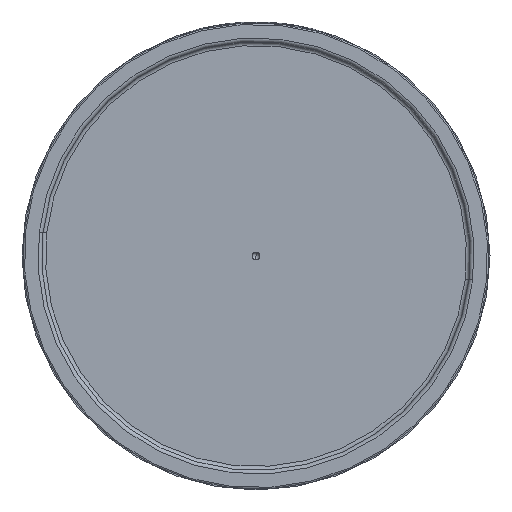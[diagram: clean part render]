
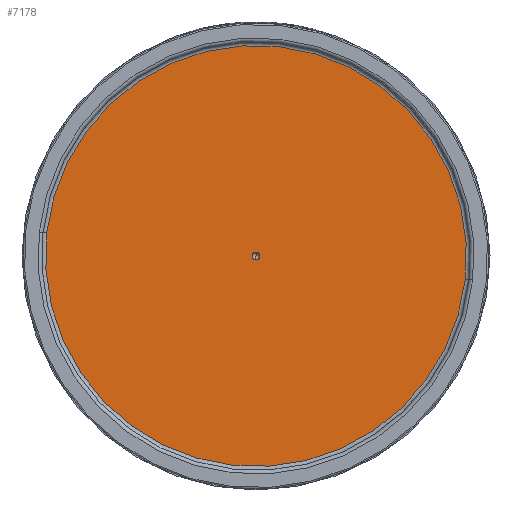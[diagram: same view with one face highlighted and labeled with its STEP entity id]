
A CAD part, front view. The second image highlights one B-rep face of the part: STEP entity #7178.
In plain terms, the highlighted planar face has unit normal (0, -1, 0).
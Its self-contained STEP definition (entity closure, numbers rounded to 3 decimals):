
#230 = DIRECTION ( 'NONE',  ( 0.994, 0., -0.11 ) ) ;
#1933 = CARTESIAN_POINT ( 'NONE',  ( 0., -241.645, 49.614 ) ) ;
#3319 = DIRECTION ( 'NONE',  ( 0.994, 0., -0.11 ) ) ;
#4040 = DIRECTION ( 'NONE',  ( 0., 1., 0. ) ) ;
#6366 = ORIENTED_EDGE ( 'NONE', *, *, #39695, .T. ) ;
#6928 = FACE_OUTER_BOUND ( 'NONE', #33839, .T. ) ;
#7178 = ADVANCED_FACE ( 'NONE', ( #13693, #6928 ), #12623, .F. ) ;
#7271 = AXIS2_PLACEMENT_3D ( 'NONE', #10506, #4040, #22774 ) ;
#7304 = VERTEX_POINT ( 'NONE', #22345 ) ;
#7340 = CARTESIAN_POINT ( 'NONE',  ( -0.055, -241.645, 49.117 ) ) ;
#8079 = EDGE_CURVE ( 'NONE', #7304, #18301, #22317, .T. ) ;
#8927 = CARTESIAN_POINT ( 'NONE',  ( 0., -241.645, 49.614 ) ) ;
#9615 = AXIS2_PLACEMENT_3D ( 'NONE', #8927, #36769, #39915 ) ;
#9972 = EDGE_CURVE ( 'NONE', #18301, #7304, #28075, .T. ) ;
#10506 = CARTESIAN_POINT ( 'NONE',  ( 0., -241.645, 49.614 ) ) ;
#11372 = AXIS2_PLACEMENT_3D ( 'NONE', #12229, #30793, #230 ) ;
#11743 = EDGE_LOOP ( 'NONE', ( #31030, #37972 ) ) ;
#12229 = CARTESIAN_POINT ( 'NONE',  ( -0.055, -241.645, 49.117 ) ) ;
#12623 = PLANE ( 'NONE',  #11372 ) ;
#13693 = FACE_BOUND ( 'NONE', #11743, .T. ) ;
#15619 = DIRECTION ( 'NONE',  ( 0., -1., 0. ) ) ;
#18301 = VERTEX_POINT ( 'NONE', #7340 ) ;
#18437 = CARTESIAN_POINT ( 'NONE',  ( 27.722, -241.645, 46.548 ) ) ;
#21818 = CARTESIAN_POINT ( 'NONE',  ( 0., -241.645, 49.614 ) ) ;
#22317 = CIRCLE ( 'NONE', #7271, 0.5 ) ;
#22345 = CARTESIAN_POINT ( 'NONE',  ( 0.055, -241.645, 50.111 ) ) ;
#22774 = DIRECTION ( 'NONE',  ( 0.994, 0., -0.11 ) ) ;
#23102 = CIRCLE ( 'NONE', #25222, 27.891 ) ;
#25222 = AXIS2_PLACEMENT_3D ( 'NONE', #1933, #32498, #35588 ) ;
#28075 = CIRCLE ( 'NONE', #9615, 0.5 ) ;
#30455 = EDGE_CURVE ( 'NONE', #35010, #37213, #31166, .T. ) ;
#30793 = DIRECTION ( 'NONE',  ( 0., 1., 0. ) ) ;
#31030 = ORIENTED_EDGE ( 'NONE', *, *, #8079, .T. ) ;
#31166 = CIRCLE ( 'NONE', #32153, 27.891 ) ;
#32153 = AXIS2_PLACEMENT_3D ( 'NONE', #21818, #15619, #3319 ) ;
#32498 = DIRECTION ( 'NONE',  ( 0., -1., 0. ) ) ;
#33839 = EDGE_LOOP ( 'NONE', ( #37845, #6366 ) ) ;
#35010 = VERTEX_POINT ( 'NONE', #18437 ) ;
#35588 = DIRECTION ( 'NONE',  ( 0.994, 0., -0.11 ) ) ;
#36252 = CARTESIAN_POINT ( 'NONE',  ( -27.722, -241.645, 52.679 ) ) ;
#36769 = DIRECTION ( 'NONE',  ( 0., 1., 0. ) ) ;
#37213 = VERTEX_POINT ( 'NONE', #36252 ) ;
#37845 = ORIENTED_EDGE ( 'NONE', *, *, #30455, .T. ) ;
#37972 = ORIENTED_EDGE ( 'NONE', *, *, #9972, .T. ) ;
#39695 = EDGE_CURVE ( 'NONE', #37213, #35010, #23102, .T. ) ;
#39915 = DIRECTION ( 'NONE',  ( 0.994, 0., -0.11 ) ) ;
